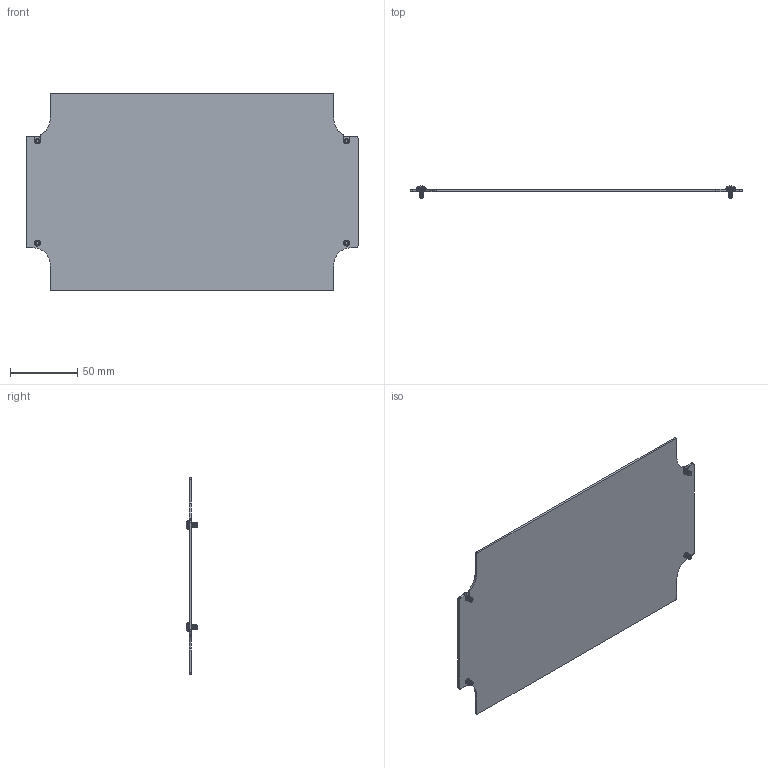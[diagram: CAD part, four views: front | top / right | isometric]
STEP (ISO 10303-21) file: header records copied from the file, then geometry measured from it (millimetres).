
FILE_DESCRIPTION (( 'STEP AP214' ), '1' );
FILE_NAME ('AN-23K.step', '2026-09-17T19:29:37', ( '' ), ( '' ), 'SwSTEP 2.0', 'SolidWorks 2026', '' );
FILE_SCHEMA (( 'AUTOMOTIVE_DESIGN' ));
Length unit declared in the file: inch
Products named in the file (3): AN-23K; SCREWS-050; AN-23-P_DEFAULT
Assembly tree (5 placements, depth 2):
  AN-23K
    AN-23-P_DEFAULT
    SCREWS-050  x4
Bounding box: 247 x 8.8 x 147 mm (x, y, z)
Volume: 52329.6 mm3; surface area: 70149.4 mm2
Topology: 5 solids, 5 shells, 1384 faces, 3354 edges, 1976 vertices
Faces by surface type: bspline 736, cylinder 338, plane 118, sphere 96, cone 80, torus 16
Entity records: 17870 total; most frequent: CARTESIAN_POINT 10145, ORIENTED_EDGE 1862, DIRECTION 1135, EDGE_CURVE 931, VERTEX_POINT 557, AXIS2_PLACEMENT_3D 416, B_SPLINE_CURVE_WITH_KNOTS 415, EDGE_LOOP 384
